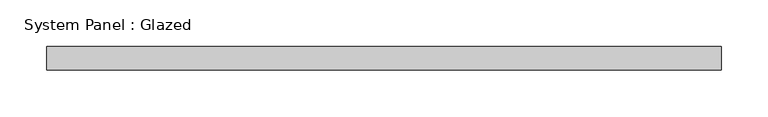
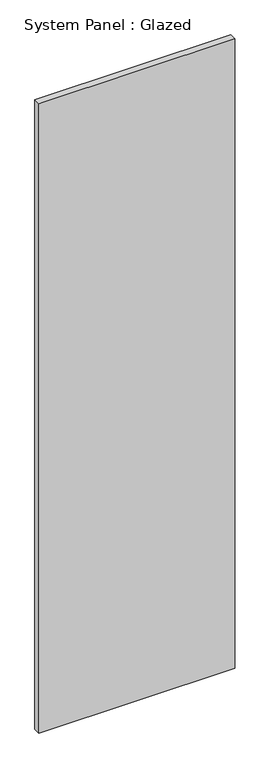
"""IFC4 building model written with IfcOpenShell, lengths in millimetres: plate geometry, System Panel : Glazed."""

from ifc_helpers import new_model, si_unit, origin, origin_with_axes, place, context, project, spatial, polyline, outline, extrude, source, transform, mapped, element, save


def system_panel_glazed_b67a0a7b(model_context):
    return source(origin(), model_context, "Body", "SweptSolid", [
        extrude(outline(polyline([(360.4329079, -12.5), (-360.4329079, -12.5), (-360.4329079, 12.5), (360.4329079, 12.5), (360.4329079, -12.5)])), origin_with_axes(), (0.0, 0.0, 1.0), 2450.0),
    ])


if __name__ == "__main__":
    model = new_model("IFC4")
    model_context = context("Model", 3, world=origin())
    ifc_project = project(units=[si_unit("LENGTHUNIT", "METRE", prefix="MILLI")], contexts=[model_context])
    site = spatial("IfcSite", under=ifc_project)
    building = spatial("IfcBuilding", under=site)
    placement = place(None, origin())
    system_panel_glazed_shape = system_panel_glazed_b67a0a7b(model_context)
    element("IfcPlate", 1, ObjectType="System Panel : Glazed", at=placement, inside=building, context=model_context, shape_type="MappedRepresentation", body=[
        mapped(system_panel_glazed_shape, transform((0.0, 0.0, 0.0), x_axis=(1.0, 0.0, 0.0), y_axis=(0.0, 1.0, 0.0), z_axis=(0.0, 0.0, 1.0))),
    ])
    save(model, "model.ifc")
